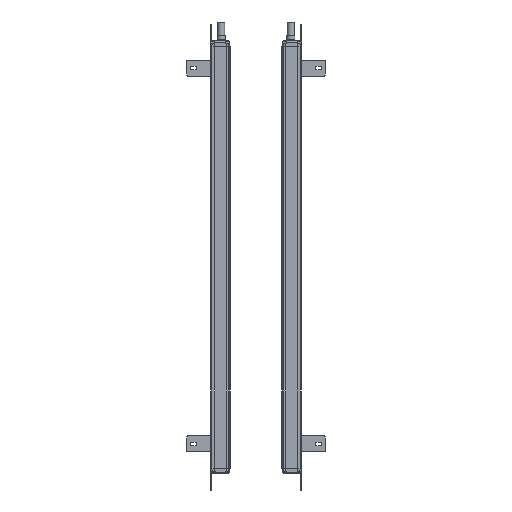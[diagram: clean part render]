
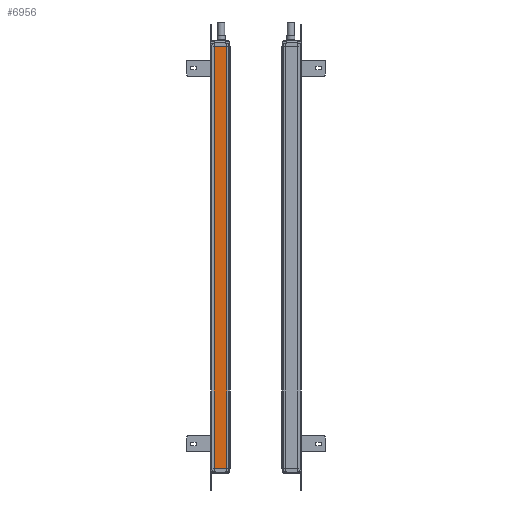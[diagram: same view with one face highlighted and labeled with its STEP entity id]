
A CAD part, left-side view. The second image highlights one B-rep face of the part: STEP entity #6956.
In plain terms, the highlighted planar face has unit normal (-1, 0, 0).
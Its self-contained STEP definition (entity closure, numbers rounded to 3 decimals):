
#953=FACE_OUTER_BOUND('',#9034,.T.);
#2188=LINE('',#33710,#4326);
#2290=LINE('',#34050,#4428);
#2291=LINE('',#34052,#4429);
#2292=LINE('',#34054,#4430);
#4326=VECTOR('',#26897,1.);
#4428=VECTOR('',#27185,1.);
#4429=VECTOR('',#27188,1.);
#4430=VECTOR('',#27189,1.);
#6178=PLANE('',#23723);
#6956=ADVANCED_FACE('',(#953),#6178,.T.);
#9034=EDGE_LOOP('',(#11681,#11682,#11683,#11684));
#11681=ORIENTED_EDGE('',*,*,#19828,.F.);
#11682=ORIENTED_EDGE('',*,*,#19829,.T.);
#11683=ORIENTED_EDGE('',*,*,#19830,.T.);
#11684=ORIENTED_EDGE('',*,*,#19658,.F.);
#17203=VERTEX_POINT('',#33709);
#17204=VERTEX_POINT('',#33711);
#17348=VERTEX_POINT('',#34049);
#17349=VERTEX_POINT('',#34053);
#19658=EDGE_CURVE('',#17203,#17204,#2188,.T.);
#19828=EDGE_CURVE('',#17348,#17203,#2290,.T.);
#19829=EDGE_CURVE('',#17348,#17349,#2291,.T.);
#19830=EDGE_CURVE('',#17349,#17204,#2292,.T.);
#23723=AXIS2_PLACEMENT_3D('',#34055,#27190,#27191);
#26897=DIRECTION('',(0.,-1.,0.));
#27185=DIRECTION('',(0.,0.,1.));
#27188=DIRECTION('',(0.,-1.,0.));
#27189=DIRECTION('',(0.,0.,1.));
#27190=DIRECTION('',(-1.,0.,0.));
#27191=DIRECTION('',(0.,1.,0.));
#33709=CARTESIAN_POINT('',(233.846,104.141,31.645));
#33710=CARTESIAN_POINT('',(233.846,81.141,31.645));
#33711=CARTESIAN_POINT('',(233.846,81.141,31.645));
#34049=CARTESIAN_POINT('',(233.846,104.141,-753.355));
#34050=CARTESIAN_POINT('',(233.846,104.141,-155.355));
#34052=CARTESIAN_POINT('',(233.846,81.141,-753.355));
#34053=CARTESIAN_POINT('',(233.846,81.141,-753.355));
#34054=CARTESIAN_POINT('',(233.846,81.141,-155.355));
#34055=CARTESIAN_POINT('',(233.846,81.141,-50.355));
